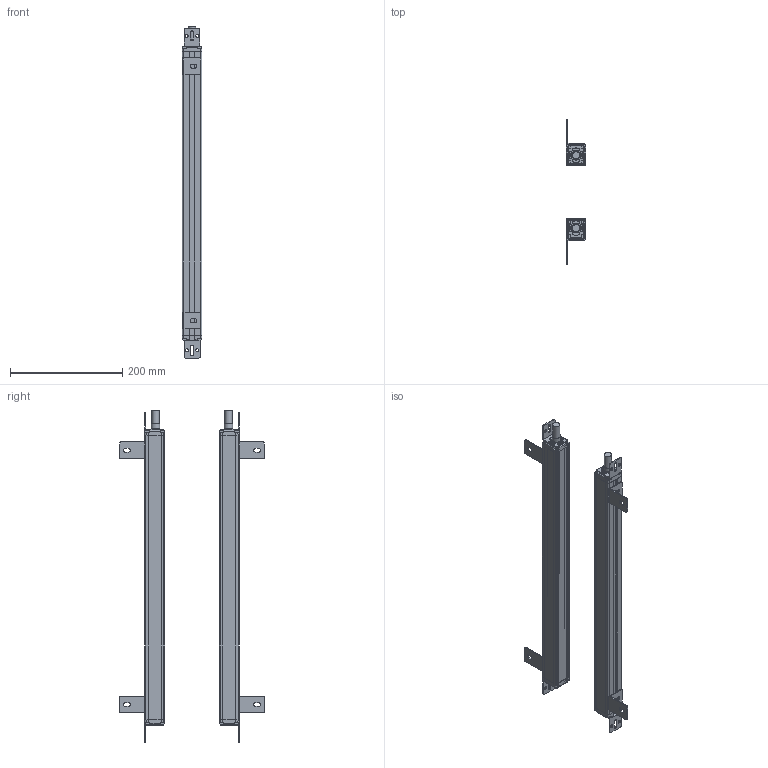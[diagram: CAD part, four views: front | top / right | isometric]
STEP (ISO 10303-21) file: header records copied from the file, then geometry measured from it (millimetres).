
FILE_DESCRIPTION(/* description */ (''),/* implementation_level */ '2;1');
FILE_NAME(/* name */ '4810_35X35_stp_stp.stp',/* time_stamp */ '2023-09-18T17:24:05+08:00',/* author */ (''),/* organization */ (''),/* preprocessor_version */ 'ST-DEVELOPER v16.7',/* originating_system */ 'SIEMENS PLM Software NX 12.0',/* authorisation */ '');
FILE_SCHEMA (('AP203_CONFIGURATION_CONTROLLED_3D_DESIGN_OF_MECHANICAL_PARTS_AND_ASSEMBLIES_MIM_LF { 1 0 10303 403 2 1 2}'));
Length unit declared in the file: millimetre
Products named in the file (1): 0420_35X35_stp_stp
Bounding box: 35.41 x 258.01 x 591.6 mm (x, y, z)
Volume: 536741.2 mm3; surface area: 410383.3 mm2
Topology: 28 solids, 28 shells, 1182 faces, 3360 edges, 2260 vertices
Faces by surface type: plane 658, cylinder 464, cone 60
Full cylindrical faces by diameter (mm): 3.2 x8, 6 x24, 13 x2, 14.4 x2, 15 x2
Entity records: 39055 total; most frequent: DIRECTION 6832, CARTESIAN_POINT 6745, ORIENTED_EDGE 6612, EDGE_CURVE 3306, AXIS2_PLACEMENT_3D 2347, VERTEX_POINT 2244, LINE 2138, VECTOR 2138
